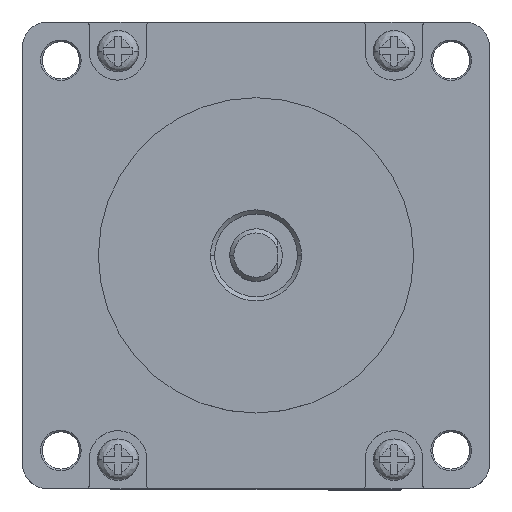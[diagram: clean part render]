
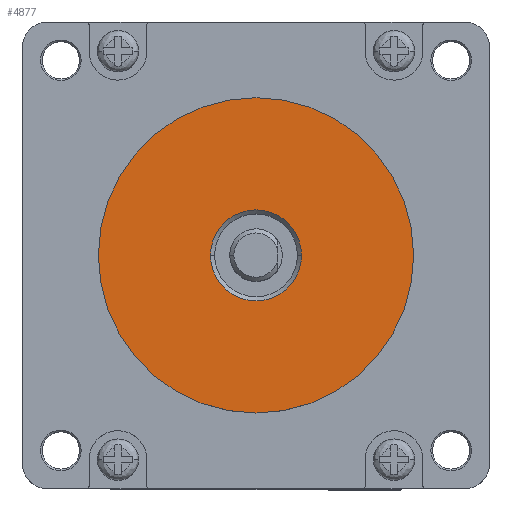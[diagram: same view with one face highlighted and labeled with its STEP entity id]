
A CAD part, top view. The second image highlights one B-rep face of the part: STEP entity #4877.
In plain terms, the highlighted planar face has unit normal (0, 0, 1).
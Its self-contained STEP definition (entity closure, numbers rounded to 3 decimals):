
#98 = AXIS2_PLACEMENT_3D ( 'NONE', #5019, #5156, #5163 ) ;
#290 = AXIS2_PLACEMENT_3D ( 'NONE', #662, #663, #664 ) ;
#291 = AXIS2_PLACEMENT_3D ( 'NONE', #666, #667, #668 ) ;
#326 = AXIS2_PLACEMENT_3D ( 'NONE', #1274, #1275, #1276 ) ;
#662 = CARTESIAN_POINT ( 'NONE',  ( 0., 0., 4.1 ) ) ;
#663 = DIRECTION ( 'NONE',  ( 0., 0., 1. ) ) ;
#664 = DIRECTION ( 'NONE',  ( 1., 0., 0. ) ) ;
#666 = CARTESIAN_POINT ( 'NONE',  ( 0., 0., 4.1 ) ) ;
#667 = DIRECTION ( 'NONE',  ( 0., 0., -1. ) ) ;
#668 = DIRECTION ( 'NONE',  ( 1., 0., 0. ) ) ;
#868 = CARTESIAN_POINT ( 'NONE',  ( 19.05, 0., 4.1 ) ) ;
#925 = CARTESIAN_POINT ( 'NONE',  ( -5.5, 0., 4.1 ) ) ;
#1035 = CARTESIAN_POINT ( 'NONE',  ( 5.5, 0., 4.1 ) ) ;
#1064 = CARTESIAN_POINT ( 'NONE',  ( -19.05, 0., 4.1 ) ) ;
#1154 = EDGE_CURVE ( 'NONE', #2836, #3275, #4639, .T. ) ;
#1274 = CARTESIAN_POINT ( 'NONE',  ( 0., 0., 4.1 ) ) ;
#1275 = DIRECTION ( 'NONE',  ( 0., 0., -1. ) ) ;
#1276 = DIRECTION ( 'NONE',  ( 1., 0., 0. ) ) ;
#2680 = VERTEX_POINT ( 'NONE', #925 ) ;
#2769 = CIRCLE ( 'NONE', #290, 19.05 ) ;
#2836 = VERTEX_POINT ( 'NONE', #868 ) ;
#2993 = ORIENTED_EDGE ( 'NONE', *, *, #1154, .T. ) ;
#2996 = ORIENTED_EDGE ( 'NONE', *, *, #6533, .T. ) ;
#3203 = VERTEX_POINT ( 'NONE', #1035 ) ;
#3275 = VERTEX_POINT ( 'NONE', #1064 ) ;
#3530 = FACE_OUTER_BOUND ( 'NONE', #4311, .T. ) ;
#3624 = EDGE_LOOP ( 'NONE', ( #3915, #2996 ) ) ;
#3915 = ORIENTED_EDGE ( 'NONE', *, *, #6659, .T. ) ;
#4092 = ORIENTED_EDGE ( 'NONE', *, *, #6531, .T. ) ;
#4176 = CIRCLE ( 'NONE', #291, 5.5 ) ;
#4306 = CIRCLE ( 'NONE', #326, 5.5 ) ;
#4311 = EDGE_LOOP ( 'NONE', ( #4092, #2993 ) ) ;
#4352 = FACE_BOUND ( 'NONE', #3624, .T. ) ;
#4639 = CIRCLE ( 'NONE', #6793, 19.05 ) ;
#4877 = ADVANCED_FACE ( 'NONE', ( #4352, #3530 ), #5134, .T. ) ;
#5019 = CARTESIAN_POINT ( 'NONE',  ( 0., 0., 4.1 ) ) ;
#5134 = PLANE ( 'NONE',  #98 ) ;
#5156 = DIRECTION ( 'NONE',  ( 0., 0., 1. ) ) ;
#5163 = DIRECTION ( 'NONE',  ( 1., 0., 0. ) ) ;
#5400 = DIRECTION ( 'NONE',  ( 1., 0., 0. ) ) ;
#5405 = DIRECTION ( 'NONE',  ( 0., 0., 1. ) ) ;
#5425 = CARTESIAN_POINT ( 'NONE',  ( 0., 0., 4.1 ) ) ;
#6531 = EDGE_CURVE ( 'NONE', #3275, #2836, #2769, .T. ) ;
#6533 = EDGE_CURVE ( 'NONE', #2680, #3203, #4176, .T. ) ;
#6659 = EDGE_CURVE ( 'NONE', #3203, #2680, #4306, .T. ) ;
#6793 = AXIS2_PLACEMENT_3D ( 'NONE', #5425, #5405, #5400 ) ;
